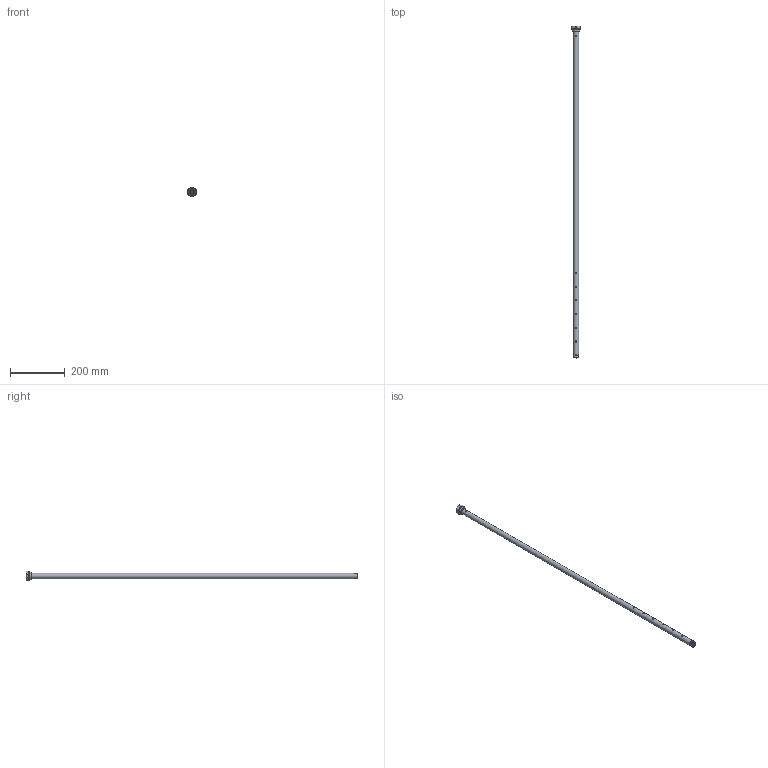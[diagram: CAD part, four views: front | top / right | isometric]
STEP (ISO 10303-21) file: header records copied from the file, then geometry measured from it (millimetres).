
FILE_DESCRIPTION( ( 'STEP AP203' ), '1' );
FILE_NAME( 'p:/temp/worker_56/temp/exporttempdir_6420_298_e3dCC/format_5/E43215.stp', '2019-12-17T10:00:36', ( '' ), ( '' ), ' ', 'PARTsolutions', ' ' );
FILE_SCHEMA( ( 'CONFIG_CONTROL_DESIGN' ) );
Length unit declared in the file: millimetre
Products named in the file (1): _E43215
Bounding box: 32.1 x 1209.1 x 34.98 mm (x, y, z)
Volume: 79652.8 mm3; surface area: 146901.1 mm2
Topology: 1 solids, 1 shells, 94 faces, 295 edges, 185 vertices
Faces by surface type: cylinder 55, plane 30, cone 5, torus 4
Full cylindrical faces by diameter (mm): 3 x4, 4 x16, 16.5 x1, 18 x2, 20 x1, 24.117 x1, 26.441 x1, 32.1 x1
Entity records: 5134 total; most frequent: CARTESIAN_POINT 2820, DIRECTION 444, ORIENTED_EDGE 426, EDGE_CURVE 213, AXIS2_PLACEMENT_3D 192, EDGE_LOOP 186, VERTEX_POINT 156, FACE_OUTER_BOUND 125
